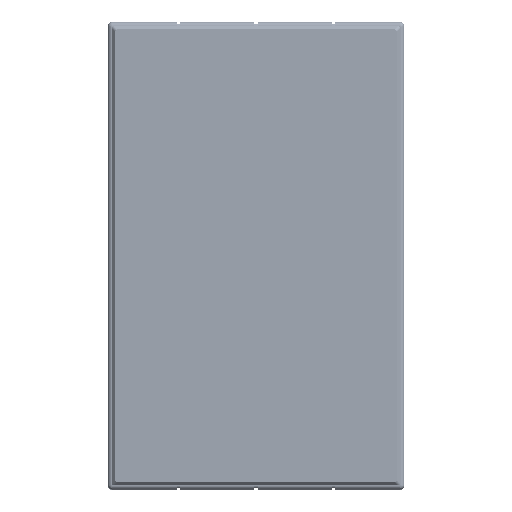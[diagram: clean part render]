
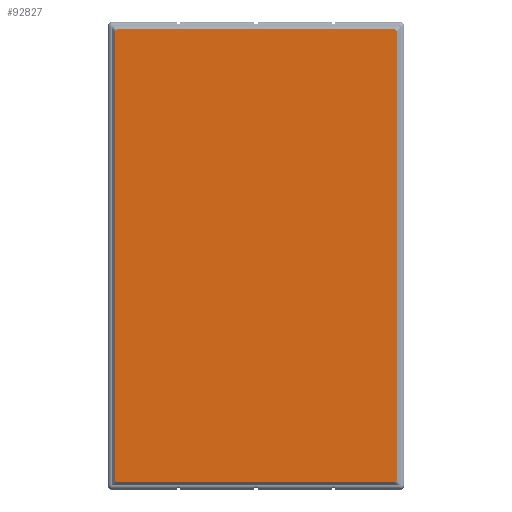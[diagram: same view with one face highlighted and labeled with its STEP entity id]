
A CAD part, top view. The second image highlights one B-rep face of the part: STEP entity #92827.
In plain terms, the highlighted planar face has unit normal (0, 0, 1).
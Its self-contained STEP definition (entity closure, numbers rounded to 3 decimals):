
#1715=ELLIPSE('',#101505,7.448,4.3);
#1717=ELLIPSE('',#101508,7.448,4.3);
#1719=ELLIPSE('',#101511,7.448,4.3);
#1721=ELLIPSE('',#101514,7.448,4.3);
#11471=LINE('',#614589,#18254);
#11475=LINE('',#614606,#18258);
#11479=LINE('',#614623,#18262);
#11483=LINE('',#614638,#18266);
#18254=VECTOR('',#125514,10.);
#18258=VECTOR('',#125524,10.);
#18262=VECTOR('',#125534,10.);
#18266=VECTOR('',#125544,10.);
#25378=FACE_OUTER_BOUND('',#31131,.T.);
#31131=EDGE_LOOP('',(#85237,#85238,#85239,#85240,#85241,#85242,#85243,#85244));
#44002=VERTEX_POINT('',#614580);
#44003=VERTEX_POINT('',#614582);
#44005=VERTEX_POINT('',#614588);
#44007=VERTEX_POINT('',#614599);
#44009=VERTEX_POINT('',#614605);
#44011=VERTEX_POINT('',#614616);
#44013=VERTEX_POINT('',#614622);
#44015=VERTEX_POINT('',#614633);
#57751=EDGE_CURVE('',#44003,#44002,#1715,.T.);
#57754=EDGE_CURVE('',#44005,#44003,#11471,.T.);
#57757=EDGE_CURVE('',#44007,#44005,#1717,.T.);
#57760=EDGE_CURVE('',#44009,#44007,#11475,.T.);
#57763=EDGE_CURVE('',#44011,#44009,#1719,.T.);
#57766=EDGE_CURVE('',#44013,#44011,#11479,.T.);
#57769=EDGE_CURVE('',#44015,#44013,#1721,.T.);
#57772=EDGE_CURVE('',#44002,#44015,#11483,.T.);
#85237=ORIENTED_EDGE('',*,*,#57772,.T.);
#85238=ORIENTED_EDGE('',*,*,#57769,.T.);
#85239=ORIENTED_EDGE('',*,*,#57766,.T.);
#85240=ORIENTED_EDGE('',*,*,#57763,.T.);
#85241=ORIENTED_EDGE('',*,*,#57760,.T.);
#85242=ORIENTED_EDGE('',*,*,#57757,.T.);
#85243=ORIENTED_EDGE('',*,*,#57754,.T.);
#85244=ORIENTED_EDGE('',*,*,#57751,.T.);
#87771=PLANE('',#101516);
#92827=ADVANCED_FACE('',(#25378),#87771,.T.);
#101505=AXIS2_PLACEMENT_3D('',#614583,#125508,#125509);
#101508=AXIS2_PLACEMENT_3D('',#614600,#125518,#125519);
#101511=AXIS2_PLACEMENT_3D('',#614617,#125528,#125529);
#101514=AXIS2_PLACEMENT_3D('',#614634,#125538,#125539);
#101516=AXIS2_PLACEMENT_3D('',#614639,#125545,#125546);
#125508=DIRECTION('center_axis',(0.,0.,1.));
#125509=DIRECTION('ref_axis',(-0.707,-0.707,0.));
#125514=DIRECTION('',(0.,-1.,0.));
#125518=DIRECTION('center_axis',(0.,0.,1.));
#125519=DIRECTION('ref_axis',(-0.707,0.707,0.));
#125524=DIRECTION('',(-1.,0.,0.));
#125528=DIRECTION('center_axis',(0.,0.,1.));
#125529=DIRECTION('ref_axis',(0.707,0.707,0.));
#125534=DIRECTION('',(0.,1.,0.));
#125538=DIRECTION('center_axis',(0.,0.,1.));
#125539=DIRECTION('ref_axis',(0.707,-0.707,0.));
#125544=DIRECTION('',(1.,0.,0.));
#125545=DIRECTION('center_axis',(0.,0.,1.));
#125546=DIRECTION('ref_axis',(-1.,0.,0.));
#614580=CARTESIAN_POINT('',(-182.084,-297.624,184.6));
#614582=CARTESIAN_POINT('',(-185.124,-294.584,184.6));
#614583=CARTESIAN_POINT('Origin',(-179.043,-291.543,184.6));
#614588=CARTESIAN_POINT('',(-185.124,294.584,184.6));
#614589=CARTESIAN_POINT('',(-185.124,294.584,184.6));
#614599=CARTESIAN_POINT('',(-182.084,297.624,184.6));
#614600=CARTESIAN_POINT('Origin',(-179.043,291.543,184.6));
#614605=CARTESIAN_POINT('',(182.084,297.624,184.6));
#614606=CARTESIAN_POINT('',(182.084,297.624,184.6));
#614616=CARTESIAN_POINT('',(185.124,294.584,184.6));
#614617=CARTESIAN_POINT('Origin',(179.043,291.543,184.6));
#614622=CARTESIAN_POINT('',(185.124,-294.584,184.6));
#614623=CARTESIAN_POINT('',(185.124,-294.584,184.6));
#614633=CARTESIAN_POINT('',(182.084,-297.624,184.6));
#614634=CARTESIAN_POINT('Origin',(179.043,-291.543,184.6));
#614638=CARTESIAN_POINT('',(-182.084,-297.624,184.6));
#614639=CARTESIAN_POINT('Origin',(0.,0.,184.6));
